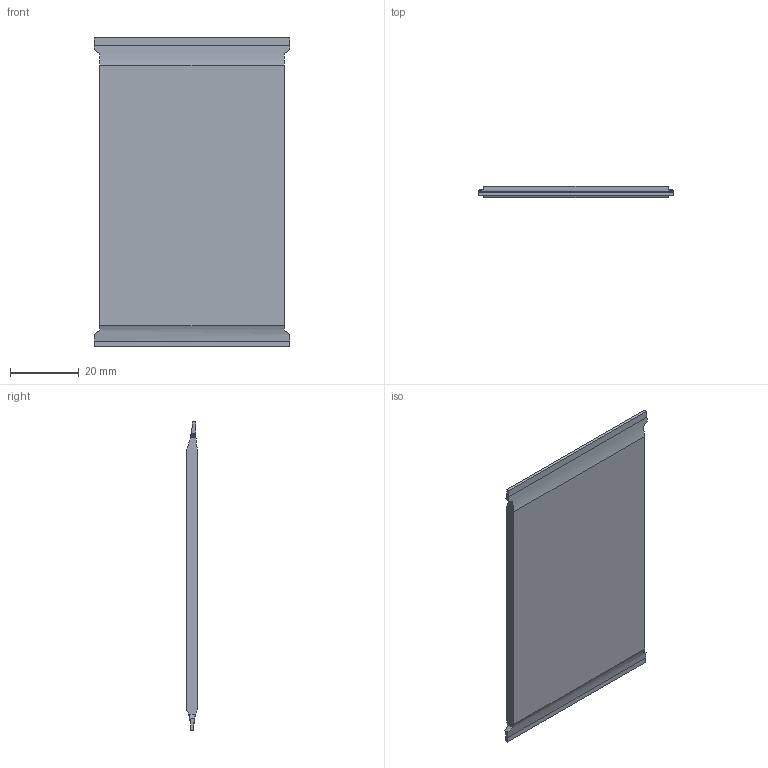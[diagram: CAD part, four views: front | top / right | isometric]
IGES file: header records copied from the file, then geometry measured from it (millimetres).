
Start section:  PTC IGES file: battery_prt.igs
Global section: file name: battery_prt.igs; native system: Pro/ENGINEER by Parametric Technology Corporation; preprocessor: 2000030; author: ECaille; organization: Unknown; date: 000803.091922; units: millimetre
Bounding box: 57 x 3.1 x 90 mm (x, y, z)
Surface area: 10471.5 mm2 (no closed solid volume)
Topology: 0 solids, 0 shells, 146 faces, 1335 edges, 1872 vertices
Faces by surface type: bspline 141, revolution 5
